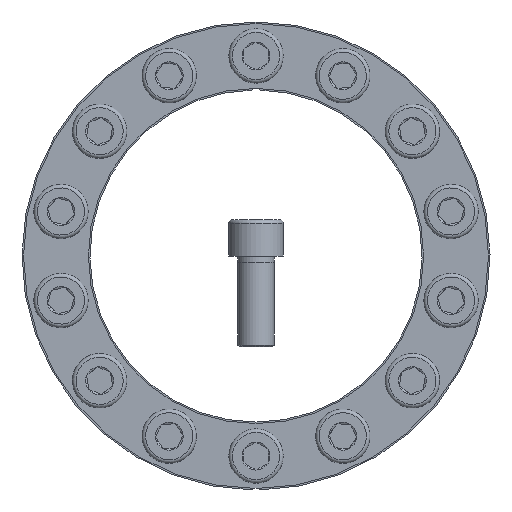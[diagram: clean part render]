
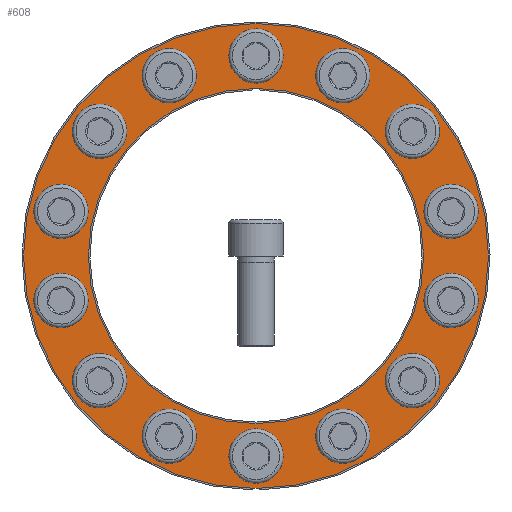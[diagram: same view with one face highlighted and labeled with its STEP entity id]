
A CAD part, front view. The second image highlights one B-rep face of the part: STEP entity #608.
In plain terms, the highlighted planar face has unit normal (0, -1, 0).
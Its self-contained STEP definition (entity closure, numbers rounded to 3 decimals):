
#608 = ADVANCED_FACE( '', ( #1164, #1165, #1166, #1167, #1168, #1169, #1170, #1171, #1172, #1173, #1174, #1175, #1176, #1177, #1178, #1179 ), #1180, .T. );
#1164 = FACE_BOUND( '', #2157, .T. );
#1165 = FACE_BOUND( '', #2158, .T. );
#1166 = FACE_BOUND( '', #2159, .T. );
#1167 = FACE_BOUND( '', #2160, .T. );
#1168 = FACE_BOUND( '', #2161, .T. );
#1169 = FACE_BOUND( '', #2162, .T. );
#1170 = FACE_BOUND( '', #2163, .T. );
#1171 = FACE_BOUND( '', #2164, .T. );
#1172 = FACE_BOUND( '', #2165, .T. );
#1173 = FACE_BOUND( '', #2166, .T. );
#1174 = FACE_BOUND( '', #2167, .T. );
#1175 = FACE_BOUND( '', #2168, .T. );
#1176 = FACE_BOUND( '', #2169, .T. );
#1177 = FACE_BOUND( '', #2170, .T. );
#1178 = FACE_BOUND( '', #2171, .T. );
#1179 = FACE_OUTER_BOUND( '', #2172, .T. );
#1180 = PLANE( '', #2173 );
#2157 = EDGE_LOOP( '', ( #3175 ) );
#2158 = EDGE_LOOP( '', ( #3176 ) );
#2159 = EDGE_LOOP( '', ( #3177 ) );
#2160 = EDGE_LOOP( '', ( #3178 ) );
#2161 = EDGE_LOOP( '', ( #3179 ) );
#2162 = EDGE_LOOP( '', ( #3180 ) );
#2163 = EDGE_LOOP( '', ( #3181 ) );
#2164 = EDGE_LOOP( '', ( #3182 ) );
#2165 = EDGE_LOOP( '', ( #3183 ) );
#2166 = EDGE_LOOP( '', ( #3184 ) );
#2167 = EDGE_LOOP( '', ( #3185 ) );
#2168 = EDGE_LOOP( '', ( #3186 ) );
#2169 = EDGE_LOOP( '', ( #3187 ) );
#2170 = EDGE_LOOP( '', ( #3188 ) );
#2171 = EDGE_LOOP( '', ( #3189 ) );
#2172 = EDGE_LOOP( '', ( #3190 ) );
#2173 = AXIS2_PLACEMENT_3D( '', #3191, #3192, #3193 );
#3175 = ORIENTED_EDGE( '', *, *, #5506, .T. );
#3176 = ORIENTED_EDGE( '', *, *, #5507, .T. );
#3177 = ORIENTED_EDGE( '', *, *, #5508, .T. );
#3178 = ORIENTED_EDGE( '', *, *, #5509, .T. );
#3179 = ORIENTED_EDGE( '', *, *, #5510, .T. );
#3180 = ORIENTED_EDGE( '', *, *, #5511, .T. );
#3181 = ORIENTED_EDGE( '', *, *, #5512, .T. );
#3182 = ORIENTED_EDGE( '', *, *, #5513, .T. );
#3183 = ORIENTED_EDGE( '', *, *, #5514, .T. );
#3184 = ORIENTED_EDGE( '', *, *, #5515, .T. );
#3185 = ORIENTED_EDGE( '', *, *, #5516, .T. );
#3186 = ORIENTED_EDGE( '', *, *, #5517, .T. );
#3187 = ORIENTED_EDGE( '', *, *, #5518, .T. );
#3188 = ORIENTED_EDGE( '', *, *, #5519, .T. );
#3189 = ORIENTED_EDGE( '', *, *, #5520, .F. );
#3190 = ORIENTED_EDGE( '', *, *, #5521, .T. );
#3191 = CARTESIAN_POINT( '', ( 0., -16.5, -77.5 ) );
#3192 = DIRECTION( '', ( 0., -1., 0. ) );
#3193 = DIRECTION( '', ( 0., 0., -1. ) );
#5506 = EDGE_CURVE( '', #6128, #6128, #6129, .T. );
#5507 = EDGE_CURVE( '', #6130, #6130, #6131, .T. );
#5508 = EDGE_CURVE( '', #6132, #6132, #6133, .T. );
#5509 = EDGE_CURVE( '', #6134, #6134, #6135, .T. );
#5510 = EDGE_CURVE( '', #6136, #6136, #6137, .T. );
#5511 = EDGE_CURVE( '', #6138, #6138, #6139, .T. );
#5512 = EDGE_CURVE( '', #6140, #6140, #6141, .T. );
#5513 = EDGE_CURVE( '', #6142, #6142, #6143, .T. );
#5514 = EDGE_CURVE( '', #6144, #6144, #6145, .T. );
#5515 = EDGE_CURVE( '', #6146, #6146, #6147, .T. );
#5516 = EDGE_CURVE( '', #6148, #6148, #6149, .T. );
#5517 = EDGE_CURVE( '', #6150, #6150, #6151, .T. );
#5518 = EDGE_CURVE( '', #6152, #6152, #6153, .T. );
#5519 = EDGE_CURVE( '', #6154, #6154, #6155, .T. );
#5520 = EDGE_CURVE( '', #6156, #6156, #6157, .T. );
#5521 = EDGE_CURVE( '', #6158, #6158, #6159, .T. );
#6128 = VERTEX_POINT( '', #7038 );
#6129 = CIRCLE( '', #7039, 6. );
#6130 = VERTEX_POINT( '', #7040 );
#6131 = CIRCLE( '', #7041, 6. );
#6132 = VERTEX_POINT( '', #7042 );
#6133 = CIRCLE( '', #7043, 6. );
#6134 = VERTEX_POINT( '', #7044 );
#6135 = CIRCLE( '', #7045, 6. );
#6136 = VERTEX_POINT( '', #7046 );
#6137 = CIRCLE( '', #7047, 6. );
#6138 = VERTEX_POINT( '', #7048 );
#6139 = CIRCLE( '', #7049, 6. );
#6140 = VERTEX_POINT( '', #7050 );
#6141 = CIRCLE( '', #7051, 6. );
#6142 = VERTEX_POINT( '', #7052 );
#6143 = CIRCLE( '', #7053, 6. );
#6144 = VERTEX_POINT( '', #7054 );
#6145 = CIRCLE( '', #7055, 6. );
#6146 = VERTEX_POINT( '', #7056 );
#6147 = CIRCLE( '', #7057, 6. );
#6148 = VERTEX_POINT( '', #7058 );
#6149 = CIRCLE( '', #7059, 6. );
#6150 = VERTEX_POINT( '', #7060 );
#6151 = CIRCLE( '', #7061, 6. );
#6152 = VERTEX_POINT( '', #7062 );
#6153 = CIRCLE( '', #7063, 6. );
#6154 = VERTEX_POINT( '', #7064 );
#6155 = CIRCLE( '', #7065, 6. );
#6156 = VERTEX_POINT( '', #7066 );
#6157 = CIRCLE( '', #7067, 55.5 );
#6158 = VERTEX_POINT( '', #7068 );
#6159 = CIRCLE( '', #7069, 77. );
#7038 = CARTESIAN_POINT( '', ( -28.745, -16.5, 53.689 ) );
#7039 = AXIS2_PLACEMENT_3D( '', #8758, #8759, #8760 );
#7040 = CARTESIAN_POINT( '', ( -51.796, -16.5, 35.306 ) );
#7041 = AXIS2_PLACEMENT_3D( '', #8761, #8762, #8763 );
#7042 = CARTESIAN_POINT( '', ( -64.589, -16.5, 8.742 ) );
#7043 = AXIS2_PLACEMENT_3D( '', #8764, #8765, #8766 );
#7044 = CARTESIAN_POINT( '', ( -64.589, -16.5, -20.742 ) );
#7045 = AXIS2_PLACEMENT_3D( '', #8767, #8768, #8769 );
#7046 = CARTESIAN_POINT( '', ( -51.796, -16.5, -47.306 ) );
#7047 = AXIS2_PLACEMENT_3D( '', #8770, #8771, #8772 );
#7048 = CARTESIAN_POINT( '', ( -28.745, -16.5, -65.689 ) );
#7049 = AXIS2_PLACEMENT_3D( '', #8773, #8774, #8775 );
#7050 = CARTESIAN_POINT( '', ( 0., -16.5, -72.25 ) );
#7051 = AXIS2_PLACEMENT_3D( '', #8776, #8777, #8778 );
#7052 = CARTESIAN_POINT( '', ( 28.745, -16.5, -65.689 ) );
#7053 = AXIS2_PLACEMENT_3D( '', #8779, #8780, #8781 );
#7054 = CARTESIAN_POINT( '', ( 51.796, -16.5, -47.306 ) );
#7055 = AXIS2_PLACEMENT_3D( '', #8782, #8783, #8784 );
#7056 = CARTESIAN_POINT( '', ( 70.589, -16.5, -14.742 ) );
#7057 = AXIS2_PLACEMENT_3D( '', #8785, #8786, #8787 );
#7058 = CARTESIAN_POINT( '', ( 70.589, -16.5, 14.742 ) );
#7059 = AXIS2_PLACEMENT_3D( '', #8788, #8789, #8790 );
#7060 = CARTESIAN_POINT( '', ( 51.796, -16.5, 35.306 ) );
#7061 = AXIS2_PLACEMENT_3D( '', #8791, #8792, #8793 );
#7062 = CARTESIAN_POINT( '', ( 28.745, -16.5, 53.689 ) );
#7063 = AXIS2_PLACEMENT_3D( '', #8794, #8795, #8796 );
#7064 = CARTESIAN_POINT( '', ( 0., -16.5, 60.25 ) );
#7065 = AXIS2_PLACEMENT_3D( '', #8797, #8798, #8799 );
#7066 = CARTESIAN_POINT( '', ( 0., -16.5, -55.5 ) );
#7067 = AXIS2_PLACEMENT_3D( '', #8800, #8801, #8802 );
#7068 = CARTESIAN_POINT( '', ( 0., -16.5, -77. ) );
#7069 = AXIS2_PLACEMENT_3D( '', #8803, #8804, #8805 );
#8758 = CARTESIAN_POINT( '', ( -28.745, -16.5, 59.689 ) );
#8759 = DIRECTION( '', ( 0., 1., 0. ) );
#8760 = DIRECTION( '', ( 0., 0., -1. ) );
#8761 = CARTESIAN_POINT( '', ( -51.796, -16.5, 41.306 ) );
#8762 = DIRECTION( '', ( 0., 1., 0. ) );
#8763 = DIRECTION( '', ( 0., 0., -1. ) );
#8764 = CARTESIAN_POINT( '', ( -64.589, -16.5, 14.742 ) );
#8765 = DIRECTION( '', ( 0., 1., 0. ) );
#8766 = DIRECTION( '', ( 0., 0., -1. ) );
#8767 = CARTESIAN_POINT( '', ( -64.589, -16.5, -14.742 ) );
#8768 = DIRECTION( '', ( 0., 1., 0. ) );
#8769 = DIRECTION( '', ( 0., 0., -1. ) );
#8770 = CARTESIAN_POINT( '', ( -51.796, -16.5, -41.306 ) );
#8771 = DIRECTION( '', ( 0., 1., 0. ) );
#8772 = DIRECTION( '', ( 0., 0., -1. ) );
#8773 = CARTESIAN_POINT( '', ( -28.745, -16.5, -59.689 ) );
#8774 = DIRECTION( '', ( 0., 1., 0. ) );
#8775 = DIRECTION( '', ( 0., 0., -1. ) );
#8776 = CARTESIAN_POINT( '', ( 0., -16.5, -66.25 ) );
#8777 = DIRECTION( '', ( 0., 1., 0. ) );
#8778 = DIRECTION( '', ( 0., 0., -1. ) );
#8779 = CARTESIAN_POINT( '', ( 28.745, -16.5, -59.689 ) );
#8780 = DIRECTION( '', ( 0., 1., 0. ) );
#8781 = DIRECTION( '', ( 0., 0., -1. ) );
#8782 = CARTESIAN_POINT( '', ( 51.796, -16.5, -41.306 ) );
#8783 = DIRECTION( '', ( 0., 1., 0. ) );
#8784 = DIRECTION( '', ( 0., 0., -1. ) );
#8785 = CARTESIAN_POINT( '', ( 64.589, -16.5, -14.742 ) );
#8786 = DIRECTION( '', ( 0., 1., 0. ) );
#8787 = DIRECTION( '', ( 1., 0., 0. ) );
#8788 = CARTESIAN_POINT( '', ( 64.589, -16.5, 14.742 ) );
#8789 = DIRECTION( '', ( 0., 1., 0. ) );
#8790 = DIRECTION( '', ( 1., 0., 0. ) );
#8791 = CARTESIAN_POINT( '', ( 51.796, -16.5, 41.306 ) );
#8792 = DIRECTION( '', ( 0., 1., 0. ) );
#8793 = DIRECTION( '', ( 0., 0., -1. ) );
#8794 = CARTESIAN_POINT( '', ( 28.745, -16.5, 59.689 ) );
#8795 = DIRECTION( '', ( 0., 1., 0. ) );
#8796 = DIRECTION( '', ( 0., 0., -1. ) );
#8797 = CARTESIAN_POINT( '', ( 0., -16.5, 66.25 ) );
#8798 = DIRECTION( '', ( 0., 1., 0. ) );
#8799 = DIRECTION( '', ( 0., 0., -1. ) );
#8800 = CARTESIAN_POINT( '', ( 0., -16.5, 0. ) );
#8801 = DIRECTION( '', ( 0., -1., 0. ) );
#8802 = DIRECTION( '', ( 0., 0., -1. ) );
#8803 = CARTESIAN_POINT( '', ( 0., -16.5, 0. ) );
#8804 = DIRECTION( '', ( 0., -1., 0. ) );
#8805 = DIRECTION( '', ( 0., 0., -1. ) );
